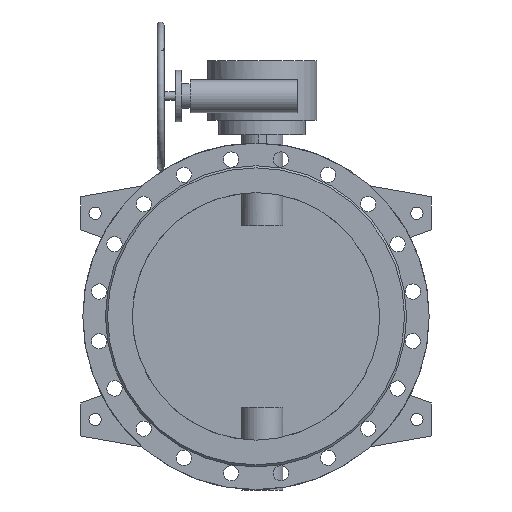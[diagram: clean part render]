
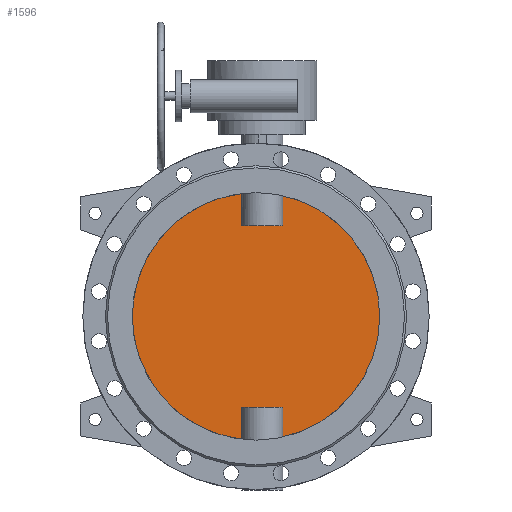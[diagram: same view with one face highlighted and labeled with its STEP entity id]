
A CAD part, front view. The second image highlights one B-rep face of the part: STEP entity #1596.
In plain terms, the highlighted planar face has unit normal (0, -1, 0).
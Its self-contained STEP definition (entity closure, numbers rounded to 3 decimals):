
#1596=ADVANCED_FACE('',(#3342),#3344,.F.);
#3342=FACE_BOUND('',#3343,.T.);
#3343=EDGE_LOOP('',(#4236,#4237,#4238,#4239,#4240,#4241,#4242,#4243));
#3344=PLANE('',#3345);
#3345=AXIS2_PLACEMENT_3D('',#3346,#3347,#3348);
#3346=CARTESIAN_POINT('',(0.,-5.,0.));
#3347=DIRECTION('',(0.,1.,0.));
#3348=DIRECTION('',(1.,0.,0.));
#4236=ORIENTED_EDGE('',*,*,#4703,.T.);
#4237=ORIENTED_EDGE('',*,*,#4709,.T.);
#4238=ORIENTED_EDGE('',*,*,#4710,.T.);
#4239=ORIENTED_EDGE('',*,*,#4711,.T.);
#4240=ORIENTED_EDGE('',*,*,#4705,.T.);
#4241=ORIENTED_EDGE('',*,*,#4712,.T.);
#4242=ORIENTED_EDGE('',*,*,#4713,.T.);
#4243=ORIENTED_EDGE('',*,*,#4714,.T.);
#4703=EDGE_CURVE('',#5425,#5426,#5427,.F.);
#4705=EDGE_CURVE('',#5430,#5428,#5431,.F.);
#4709=EDGE_CURVE('',#5426,#5437,#5438,.T.);
#4710=EDGE_CURVE('',#5437,#5439,#5440,.F.);
#4711=EDGE_CURVE('',#5439,#5430,#5441,.F.);
#4712=EDGE_CURVE('',#5428,#5442,#5443,.F.);
#4713=EDGE_CURVE('',#5442,#5444,#5445,.F.);
#4714=EDGE_CURVE('',#5444,#5425,#5446,.T.);
#5425=VERTEX_POINT('',#7911);
#5426=VERTEX_POINT('',#7912);
#5427=CIRCLE('',#7913,300.);
#5428=VERTEX_POINT('',#7917);
#5430=VERTEX_POINT('',#8004);
#5431=CIRCLE('',#8005,300.);
#5437=VERTEX_POINT('',#8127);
#5438=LINE('',#8128,#8129);
#5439=VERTEX_POINT('',#8131);
#5440=LINE('',#8132,#8133);
#5441=LINE('',#8135,#8136);
#5442=VERTEX_POINT('',#8138);
#5443=LINE('',#8139,#8140);
#5444=VERTEX_POINT('',#8142);
#5445=LINE('',#8143,#8144);
#5446=LINE('',#8146,#8147);
#7911=CARTESIAN_POINT('',(64.749,-5.,-292.929));
#7912=CARTESIAN_POINT('',(64.749,-5.,292.929));
#7913=AXIS2_PLACEMENT_3D('',#7914,#7915,#7916);
#7914=CARTESIAN_POINT('',(0.,-5.,0.));
#7915=DIRECTION('',(0.,1.,0.));
#7916=DIRECTION('',(0.216,0.,0.976));
#7917=CARTESIAN_POINT('',(-34.749,-5.,-297.981));
#8004=CARTESIAN_POINT('',(-34.749,-5.,297.981));
#8005=AXIS2_PLACEMENT_3D('',#8006,#8007,#8008);
#8006=CARTESIAN_POINT('',(0.,-5.,0.));
#8007=DIRECTION('',(0.,1.,0.));
#8008=DIRECTION('',(-0.116,0.,-0.993));
#8127=CARTESIAN_POINT('',(64.749,-5.,220.));
#8128=CARTESIAN_POINT('',(64.749,-5.,292.929));
#8129=VECTOR('',#8130,1.);
#8130=DIRECTION('',(0.,0.,-1.));
#8131=CARTESIAN_POINT('',(-34.749,-5.,220.));
#8132=CARTESIAN_POINT('',(-34.749,-5.,220.));
#8133=VECTOR('',#8134,1.);
#8134=DIRECTION('',(1.,0.,0.));
#8135=CARTESIAN_POINT('',(-34.749,-5.,297.981));
#8136=VECTOR('',#8137,1.);
#8137=DIRECTION('',(0.,0.,-1.));
#8138=CARTESIAN_POINT('',(-34.749,-5.,-220.));
#8139=CARTESIAN_POINT('',(-34.749,-5.,-220.));
#8140=VECTOR('',#8141,1.);
#8141=DIRECTION('',(0.,0.,-1.));
#8142=CARTESIAN_POINT('',(64.749,-5.,-220.));
#8143=CARTESIAN_POINT('',(64.749,-5.,-220.));
#8144=VECTOR('',#8145,1.);
#8145=DIRECTION('',(-1.,0.,0.));
#8146=CARTESIAN_POINT('',(64.749,-5.,-220.));
#8147=VECTOR('',#8148,1.);
#8148=DIRECTION('',(0.,0.,-1.));
